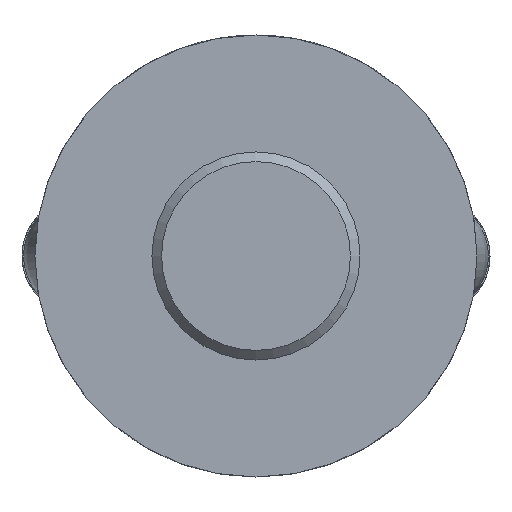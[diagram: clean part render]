
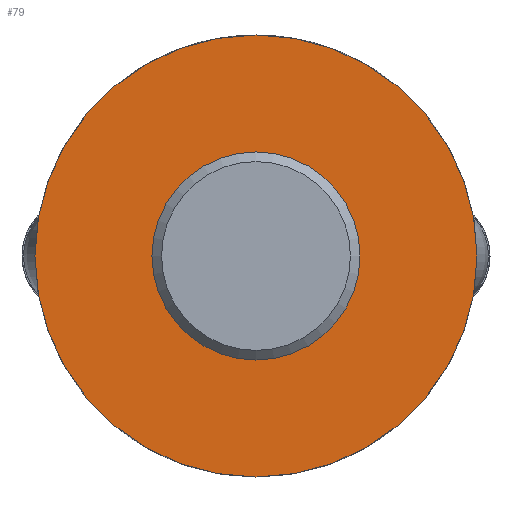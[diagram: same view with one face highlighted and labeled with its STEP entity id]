
A CAD part, front view. The second image highlights one B-rep face of the part: STEP entity #79.
In plain terms, the highlighted planar face has unit normal (0, -1, 0).
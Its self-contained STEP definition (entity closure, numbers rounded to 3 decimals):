
#79 = ADVANCED_FACE( '', ( #115, #116 ), #117, .F. );
#115 = FACE_BOUND( '', #186, .T. );
#116 = FACE_OUTER_BOUND( '', #187, .T. );
#117 = PLANE( '', #188 );
#186 = EDGE_LOOP( '', ( #276 ) );
#187 = EDGE_LOOP( '', ( #277 ) );
#188 = AXIS2_PLACEMENT_3D( '', #278, #279, #280 );
#276 = ORIENTED_EDGE( '', *, *, #464, .T. );
#277 = ORIENTED_EDGE( '', *, *, #465, .T. );
#278 = CARTESIAN_POINT( '', ( 85., 0., 0. ) );
#279 = DIRECTION( '', ( 0., 1., 0. ) );
#280 = DIRECTION( '', ( 0., 0., 1. ) );
#464 = EDGE_CURVE( '', #539, #539, #540, .T. );
#465 = EDGE_CURVE( '', #541, #541, #542, .T. );
#539 = VERTEX_POINT( '', #894 );
#540 = CIRCLE( '', #895, 40. );
#541 = VERTEX_POINT( '', #896 );
#542 = CIRCLE( '', #897, 85. );
#894 = CARTESIAN_POINT( '', ( 0., 0., 40. ) );
#895 = AXIS2_PLACEMENT_3D( '', #1246, #1247, #1248 );
#896 = CARTESIAN_POINT( '', ( 0., 0., -85. ) );
#897 = AXIS2_PLACEMENT_3D( '', #1249, #1250, #1251 );
#1246 = CARTESIAN_POINT( '', ( 0., 0., 0. ) );
#1247 = DIRECTION( '', ( 0., 1., 0. ) );
#1248 = DIRECTION( '', ( 0., 0., 1. ) );
#1249 = CARTESIAN_POINT( '', ( 0., 0., 0. ) );
#1250 = DIRECTION( '', ( 0., -1., 0. ) );
#1251 = DIRECTION( '', ( 0., 0., -1. ) );
